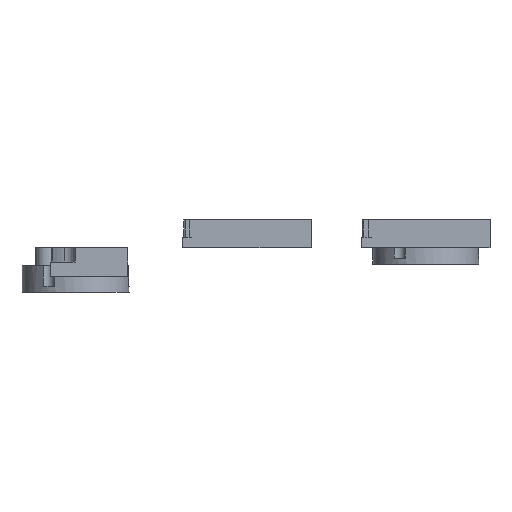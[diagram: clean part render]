
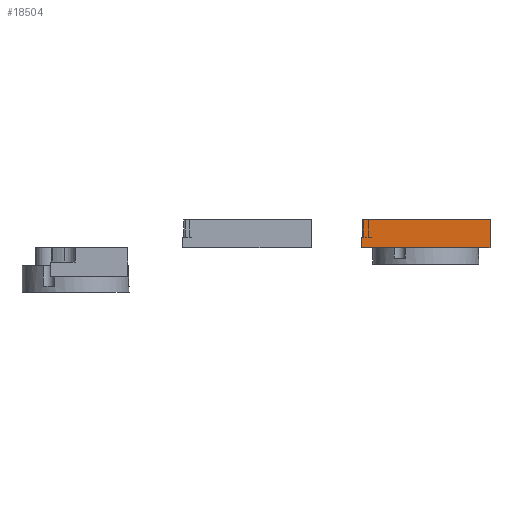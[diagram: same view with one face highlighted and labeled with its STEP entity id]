
A CAD part, front view. The second image highlights one B-rep face of the part: STEP entity #18504.
In plain terms, the highlighted planar face has unit normal (0, -1, 0).
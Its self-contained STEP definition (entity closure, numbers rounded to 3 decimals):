
#1084=B_SPLINE_CURVE_WITH_KNOTS('',3,(#22831,#22832,#22833,#22834,#22835,
#22836,#22837),.UNSPECIFIED.,.F.,.F.,(4,3,4),(-0.1,0.,0.4),
 .UNSPECIFIED.);
#3515=FACE_OUTER_BOUND('',#4563,.T.);
#4563=EDGE_LOOP('',(#12283,#12284,#12285,#12286,#12287,#12288));
#5660=LINE('',#22806,#6383);
#5661=LINE('',#22809,#6384);
#5664=LINE('',#22829,#6387);
#5665=LINE('',#22839,#6388);
#5666=LINE('',#22840,#6389);
#6383=VECTOR('',#20401,10.);
#6384=VECTOR('',#20404,10.);
#6387=VECTOR('',#20423,10.);
#6388=VECTOR('',#20424,10.);
#6389=VECTOR('',#20425,10.);
#7104=VERTEX_POINT('',#22800);
#7106=VERTEX_POINT('',#22804);
#7107=VERTEX_POINT('',#22808);
#7116=VERTEX_POINT('',#22828);
#7117=VERTEX_POINT('',#22830);
#7118=VERTEX_POINT('',#22838);
#9181=EDGE_CURVE('',#7104,#7106,#5660,.T.);
#9182=EDGE_CURVE('',#7107,#7104,#5661,.T.);
#9192=EDGE_CURVE('',#7116,#7106,#5664,.T.);
#9193=EDGE_CURVE('',#7117,#7116,#1084,.T.);
#9194=EDGE_CURVE('',#7118,#7117,#5665,.F.);
#9195=EDGE_CURVE('',#7107,#7118,#5666,.T.);
#12283=ORIENTED_EDGE('',*,*,#9181,.T.);
#12284=ORIENTED_EDGE('',*,*,#9192,.F.);
#12285=ORIENTED_EDGE('',*,*,#9193,.F.);
#12286=ORIENTED_EDGE('',*,*,#9194,.F.);
#12287=ORIENTED_EDGE('',*,*,#9195,.F.);
#12288=ORIENTED_EDGE('',*,*,#9182,.T.);
#18450=PLANE('',#19561);
#18504=ADVANCED_FACE('',(#3515),#18450,.T.);
#19561=AXIS2_PLACEMENT_3D('',#22827,#20421,#20422);
#20401=DIRECTION('',(0.,0.,1.));
#20404=DIRECTION('',(1.,0.,0.));
#20421=DIRECTION('center_axis',(0.,-1.,0.));
#20422=DIRECTION('ref_axis',(1.,0.,0.));
#20423=DIRECTION('',(1.,0.,0.));
#20424=DIRECTION('',(-1.,0.,0.));
#20425=DIRECTION('',(0.,0.,1.));
#22800=CARTESIAN_POINT('',(29.497,-113.269,0.));
#22804=CARTESIAN_POINT('',(29.497,-113.269,8.));
#22806=CARTESIAN_POINT('',(29.497,-113.269,0.));
#22808=CARTESIAN_POINT('',(-7.003,-113.269,0.));
#22809=CARTESIAN_POINT('',(-7.003,-113.269,0.));
#22827=CARTESIAN_POINT('Origin',(-7.003,-113.269,0.));
#22828=CARTESIAN_POINT('',(-6.515,-113.269,8.));
#22829=CARTESIAN_POINT('',(-7.003,-113.269,8.));
#22830=CARTESIAN_POINT('',(-6.515,-113.269,3.));
#22831=CARTESIAN_POINT('Ctrl Pts',(-6.515,-113.269,
3.));
#22832=CARTESIAN_POINT('Ctrl Pts',(-6.515,-113.269,
3.333));
#22833=CARTESIAN_POINT('Ctrl Pts',(-6.515,-113.269,
3.667));
#22834=CARTESIAN_POINT('Ctrl Pts',(-6.515,-113.269,
4.));
#22835=CARTESIAN_POINT('Ctrl Pts',(-6.515,-113.269,
5.333));
#22836=CARTESIAN_POINT('Ctrl Pts',(-6.515,-113.269,
6.667));
#22837=CARTESIAN_POINT('Ctrl Pts',(-6.515,-113.269,
8.));
#22838=CARTESIAN_POINT('',(-7.003,-113.269,3.));
#22839=CARTESIAN_POINT('',(-7.456,-113.269,3.));
#22840=CARTESIAN_POINT('',(-7.003,-113.269,0.));
